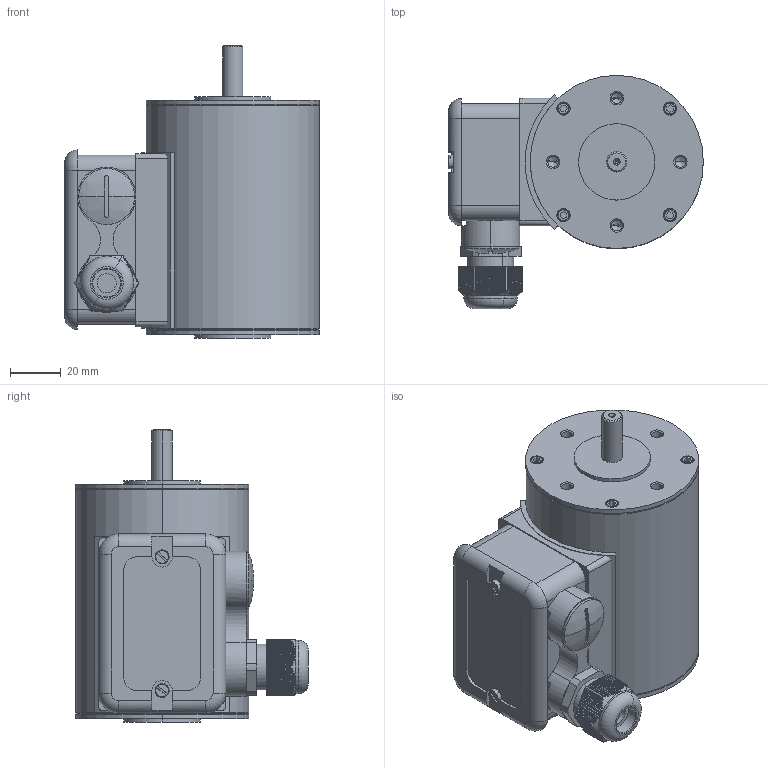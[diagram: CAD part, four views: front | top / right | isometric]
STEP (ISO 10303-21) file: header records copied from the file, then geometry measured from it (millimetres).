
FILE_DESCRIPTION (( 'STEP AP214' ), '1' );
FILE_NAME ('KD644.STEP', '2012-04-16T12:51:48', ( ' ' ), ( '' ), 'SwSTEP 2.0', 'SolidWorks 2010', '' );
FILE_SCHEMA (( 'AUTOMOTIVE_DESIGN' ));
Length unit declared in the file: millimetre
Products named in the file (12): 918088000; 951156003; 937205002; 951120003; 937202011; 937201020; 918088002; KD644; 951124003; 918083010; 935285000_KD 6
Assembly tree (20 placements, depth 3):
  KD644
    KD644
    935285000_KD 6
    951124003  x8
    918083010
      937202011
      951120003  x2
      951156003  x2
      937205002
      937201020
      918088000
      918088002
Bounding box: 100 x 91.5 x 115 mm (x, y, z)
Volume: 392901.5 mm3; surface area: 74749.2 mm2
Topology: 19 solids, 19 shells, 845 faces, 2181 edges, 1391 vertices
Faces by surface type: plane 400, cylinder 295, cone 128, torus 20, sphere 2
Entity records: 23874 total; most frequent: CARTESIAN_POINT 5091, ORIENTED_EDGE 3722, DIRECTION 3586, EDGE_CURVE 1861, AXIS2_PLACEMENT_3D 1307, VERTEX_POINT 1208, VECTOR 972, LINE 972
